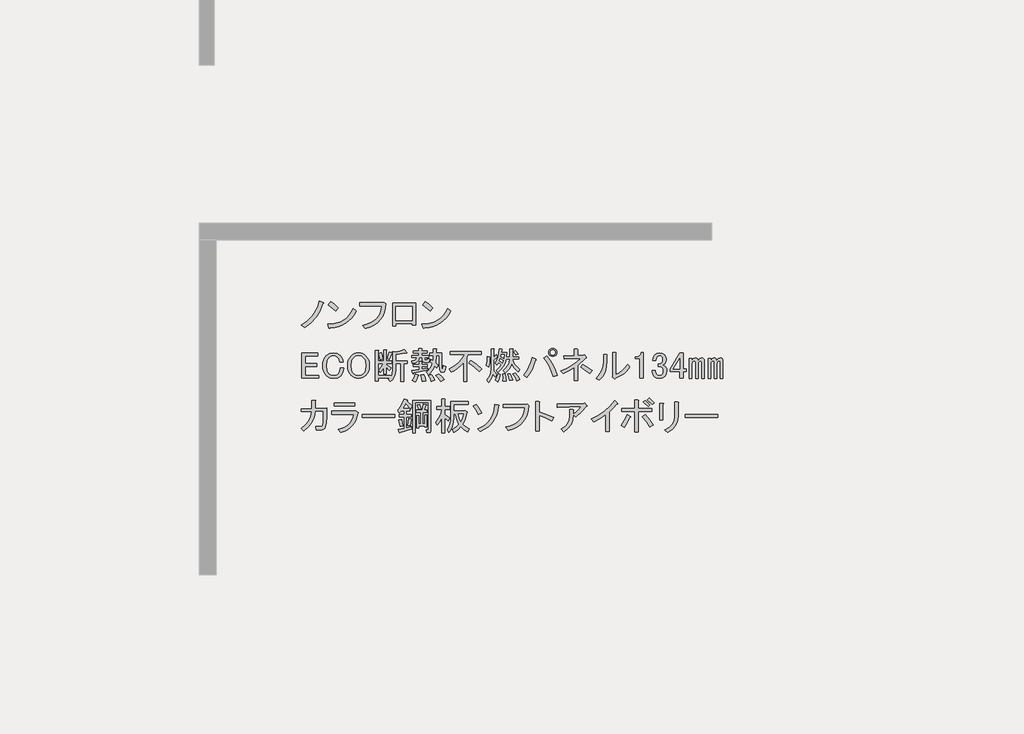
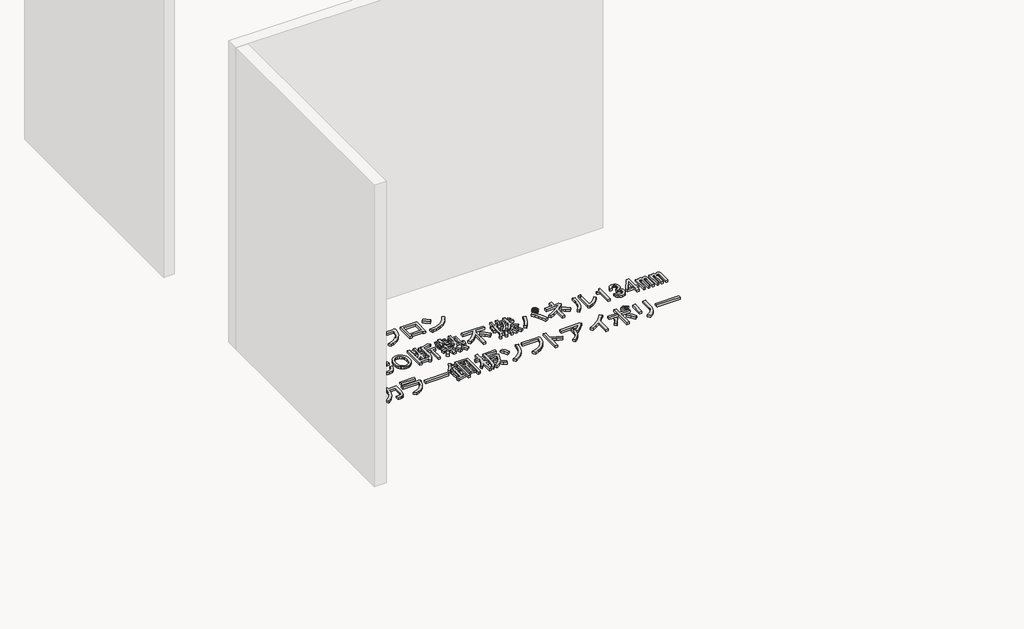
# One storey, part 46 of 117: 1 proxy.
"""IFC4 building model written with IfcOpenShell, lengths in millimetres."""

from ifc_helpers import new_model, si_unit, frame, origin, place, context, project, spatial, polyline, outline, extrude, element, save

model = new_model("IFC4")

# Units and contexts
model_context = context("Model", 3, world=origin())
ifc_project = project(units=[si_unit("LENGTHUNIT", "METRE", prefix="MILLI")], contexts=[model_context])

# Site, building, storey
site = spatial("IfcSite", under=ifc_project)
building = spatial("IfcBuilding", under=site)
storey = spatial("IfcBuildingStorey", under=building, Name="レベル 1", Elevation=500.0)

# Proxy
placement = place(None, origin())
element("IfcBuildingElementProxy", 1, Name="200㎜\u3000MS Pゴシック", ObjectType="200㎜\u3000MS Pゴシック", at=placement, inside=storey, context=model_context, shape_type="SweptSolid", body=[
    extrude(outline(polyline([(24972.1706985, -12635.5496882), (24946.5952502, -12695.3215225), (24918.146156, -12741.2998566), (24876.4782907, -12786.7034615), (24827.3389462, -12824.060858), (24799.7519457, -12802.2211493), (24847.4544673, -12771.7605029), (24887.1107805, -12733.2536481), (24904.4963381, -12709.3305462), (24919.8703435, -12681.2406577), (24933.2327969, -12648.9839827), (24944.5836981, -12612.5605212), (24975.6190736, -12626.3540214), (24978.7800841, -12630.9518548), (24972.1706985, -12635.5496882)])), frame((0.0, 0.0, 500.0), z_axis=(0.0, 0.0, 1.0), x_axis=(1.0, 0.0, 0.0)), (0.0, 0.0, 1.0), 25.0),
    extrude(outline(polyline([(25071.8977052, -12690.7236891), (25013.2753292, -12643.5958967), (25032.8161212, -12619.4572713), (25060.1157571, -12639.2854279), (25093.7374138, -12668.8839804), (25071.8977052, -12690.7236891)])), frame((0.0, 0.0, 500.0), z_axis=(0.0, 0.0, 1.0), x_axis=(1.0, 0.0, 0.0)), (0.0, 0.0, 1.0), 25.0),
    extrude(outline(polyline([(25233.9713328, -12690.7236891), (25217.447869, -12720.465924), (25198.3381239, -12746.4724192), (25176.6420975, -12768.7431748), (25152.3597898, -12787.2781907), (25125.4912008, -12802.077467), (25096.0363306, -12813.1410036), (25063.995179, -12820.4688006), (25029.3677461, -12824.060858), (25023.6204544, -12832.1070664), (25017.8731626, -12826.3597747), (25008.6774958, -12796.4738575), (25044.5082679, -12793.7977748), (25077.2857912, -12787.4937141), (25107.0100658, -12777.5616756), (25133.6810916, -12764.0016591), (25157.2988687, -12746.8136646), (25177.863397, -12725.9976923), (25195.3746766, -12701.553742), (25209.8327074, -12673.4818138), (25233.9713328, -12690.7236891)])), frame((0.0, 0.0, 500.0), z_axis=(0.0, 0.0, 1.0), x_axis=(1.0, 0.0, 0.0)), (0.0, 0.0, 1.0), 25.0),
    extrude(outline(polyline([(25284.7314136, -12805.6695243), (25318.514713, -12795.9889298), (25348.0234641, -12783.6142922), (25373.257667, -12768.5456116), (25394.2173217, -12750.782888), (25410.902428, -12730.3261214), (25423.3129862, -12707.1753118), (25431.4489961, -12681.3304591), (25435.3104577, -12652.7915635), (25262.8917049, -12652.7915635), (25262.8917049, -12627.5034798), (25437.6093744, -12627.5034798), (25453.7017914, -12624.0551047), (25466.3458332, -12635.5496882), (25462.825617, -12672.0449909), (25454.5638851, -12705.0919185), (25441.5606375, -12734.6904711), (25423.8158742, -12760.8406486), (25401.3295952, -12783.542451), (25374.1018005, -12802.7958784), (25342.1324901, -12818.6009308), (25305.421664, -12830.9576081), (25284.7314136, -12805.6695243)])), frame((0.0, 0.0, 500.0), z_axis=(0.0, 0.0, 1.0), x_axis=(1.0, 0.0, 0.0)), (0.0, 0.0, 1.0), 25.0),
    extrude(outline(polyline([(25699.455987, -12804.520066), (25673.0184449, -12804.520066), (25673.0184449, -12791.8760241), (25545.4285679, -12791.8760241), (25545.4285679, -12810.2673577), (25518.9910258, -12810.2673577), (25518.9910258, -12630.9518548), (25699.455987, -12630.9518548), (25699.455987, -12804.520066)]), holes=[polyline([(25545.4285679, -12656.2399386), (25545.4285679, -12766.5879404), (25673.0184449, -12766.5879404), (25673.0184449, -12656.2399386), (25545.4285679, -12656.2399386)])]), frame((0.0, 0.0, 500.0), z_axis=(0.0, 0.0, 1.0), x_axis=(1.0, 0.0, 0.0)), (0.0, 0.0, 1.0), 25.0),
    extrude(outline(polyline([(25975.5099049, -12690.7236891), (25958.9864411, -12720.465924), (25939.876696, -12746.4724192), (25918.1806696, -12768.7431748), (25893.8983619, -12787.2781907), (25867.0297729, -12802.077467), (25837.5749026, -12813.1410036), (25805.5337511, -12820.4688006), (25770.9063182, -12824.060858), (25765.1590264, -12832.1070664), (25759.4117347, -12826.3597747), (25750.2160679, -12796.4738575), (25786.0468399, -12793.7977748), (25818.8243633, -12787.4937141), (25848.5486378, -12777.5616756), (25875.2196637, -12764.0016591), (25898.8374407, -12746.8136646), (25919.4019691, -12725.9976923), (25936.9132486, -12701.553742), (25951.3712795, -12673.4818138), (25975.5099049, -12690.7236891)])), frame((0.0, 0.0, 500.0), z_axis=(0.0, 0.0, 1.0), x_axis=(1.0, 0.0, 0.0)), (0.0, 0.0, 1.0), 25.0),
    extrude(outline(polyline([(25813.4362772, -12690.7236891), (25754.8139013, -12643.5958967), (25774.3546933, -12619.4572713), (25801.6543291, -12639.2854279), (25835.2759859, -12668.8839804), (25813.4362772, -12690.7236891)])), frame((0.0, 0.0, 500.0), z_axis=(0.0, 0.0, 1.0), x_axis=(1.0, 0.0, 0.0)), (0.0, 0.0, 1.0), 25.0),
    extrude(outline(polyline([(24805.4992375, -13024.0551047), (24931.9396562, -13024.0551047), (24931.9396562, -13045.8948134), (24831.9367796, -13045.8948134), (24831.9367796, -13106.816106), (24925.0429061, -13106.816106), (24925.0429061, -13128.6558147), (24831.9367796, -13128.6558147), (24831.9367796, -13198.7727742), (24937.686948, -13198.7727742), (24937.686948, -13220.6124829), (24805.4992375, -13220.6124829), (24805.4992375, -13024.0551047)])), frame((0.0, 0.0, 500.0), z_axis=(0.0, 0.0, 1.0), x_axis=(1.0, 0.0, 0.0)), (0.0, 0.0, 1.0), 25.0),
    extrude(outline(polyline([(24969.7798252, -13122.908523), (24971.5758538, -13098.985421), (24976.9639399, -13077.7922827), (24985.9440832, -13059.3291079), (24998.516284, -13043.5958967), (25023.5170031, -13027.2161152), (25054.8397432, -13021.756188), (25085.5877541, -13026.641386), (25108.8642858, -13041.29698), (25124.6693381, -13064.8608762), (25130.7039944, -13094.1720642), (25103.116994, -13094.1720642), (25098.231796, -13072.9070847), (25088.1740354, -13057.3893969), (25072.9437123, -13047.0442717), (25054.8397432, -13043.5958967), (25035.2989512, -13047.6190009), (25018.0570759, -13059.6883136), (25009.0050914, -13071.3984206), (25002.5393882, -13085.8384911), (24997.3668256, -13122.908523), (25002.5393882, -13159.9785548), (25009.0050914, -13174.4186254), (25018.0570759, -13186.1287323), (25034.7242221, -13197.3359513), (25054.8397432, -13201.0716909), (25075.242629, -13197.9106804), (25090.4729521, -13188.427649), (25102.5422648, -13168.8868571), (25106.5653691, -13142.449315), (25134.1523695, -13142.449315), (25127.8303486, -13177.2204301), (25120.7899162, -13191.3731361), (25111.1632025, -13203.3706076), (25100.3151893, -13211.9197041), (25087.3119417, -13218.0262016), (25054.8397432, -13222.9113996), (25023.5170031, -13217.4514724), (24998.516284, -13201.0716909), (24985.9440832, -13185.4103209), (24976.9639399, -13167.1626695), (24971.5758538, -13146.3287369), (24969.7798252, -13122.908523)])), frame((0.0, 0.0, 500.0), z_axis=(0.0, 0.0, 1.0), x_axis=(1.0, 0.0, 0.0)), (0.0, 0.0, 1.0), 25.0),
    extrude(outline(polyline([(25165.1417667, -13121.7590646), (25166.8659542, -13098.9135799), (25172.0385168, -13078.6543764), (25180.6594544, -13060.9814543), (25192.7287671, -13045.8948134), (25205.4446501, -13035.3341648), (25219.4536738, -13027.7908443), (25234.7558381, -13023.2648521), (25251.3511431, -13021.756188), (25267.946448, -13023.2648521), (25283.2486123, -13027.7908443), (25297.257636, -13035.3341648), (25309.973519, -13045.8948134), (25322.0428317, -13060.9814543), (25330.6637694, -13078.6543764), (25335.836332, -13098.9135799), (25337.5605195, -13121.7590646), (25335.836332, -13144.6045494), (25330.6637694, -13164.8637528), (25322.0428317, -13182.536675), (25309.973519, -13197.6233159), (25297.257636, -13208.1839645), (25283.2486123, -13215.7272849), (25267.946448, -13220.2532772), (25251.3511431, -13221.7619413), (25234.7558381, -13220.2532772), (25219.4536738, -13215.7272849), (25205.4446501, -13208.1839645), (25192.7287671, -13197.6233159), (25180.6594544, -13182.536675), (25172.0385168, -13164.8637528), (25166.8659542, -13144.6045494), (25165.1417667, -13121.7590646)]), holes=[polyline([(25251.3511431, -13043.5958967), (25230.6608927, -13047.9063655), (25212.2695591, -13060.837772), (25203.7204626, -13071.9731498), (25197.6139651, -13085.8384911), (25192.7287671, -13121.7590646), (25197.6139651, -13157.6796381), (25203.7204626, -13171.5449795), (25212.2695591, -13182.6803573), (25230.6608927, -13195.6117637), (25251.3511431, -13199.9222326), (25272.0413934, -13195.6117637), (25290.432727, -13182.6803573), (25298.9818235, -13171.5449795), (25305.088321, -13157.6796381), (25309.973519, -13121.7590646), (25305.088321, -13085.8384911), (25298.9818235, -13071.9731498), (25290.432727, -13060.837772), (25272.0413934, -13047.9063655), (25251.3511431, -13043.5958967)])]), frame((0.0, 0.0, 500.0), z_axis=(0.0, 0.0, 1.0), x_axis=(1.0, 0.0, 0.0)), (0.0, 0.0, 1.0), 25.0),
    extrude(outline(polyline([(25476.3691101, -13067.7345221), (25493.6109854, -13014.8594379), (25514.3012357, -13020.6067296), (25516.0254232, -13023.7677401), (25512.002319, -13026.3540214), (25494.7604437, -13074.6312722), (25476.3691101, -13067.7345221)])), frame((0.0, 0.0, 500.0), z_axis=(0.0, 0.0, 1.0), x_axis=(1.0, 0.0, 0.0)), (0.0, 0.0, 1.0), 25.0),
    extrude(outline(polyline([(25630.3965292, -13019.4572713), (25628.6723417, -13024.0551047), (25621.2008624, -13021.756188), (25544.1871528, -13034.4002299), (25544.1871528, -13083.826939), (25636.143821, -13083.826939), (25636.143821, -13105.6666477), (25605.1084455, -13105.6666477), (25605.1084455, -13245.9005666), (25582.1192785, -13245.9005666), (25582.1192785, -13105.6666477), (25544.1871528, -13105.6666477), (25544.1871528, -13155.0933568), (25541.6008716, -13182.8958807), (25533.8420277, -13207.6810764), (25520.9106212, -13229.448944), (25502.8066522, -13248.1994833), (25485.5647769, -13228.6586914), (25495.9099021, -13219.4630245), (25406.2521506, -13219.4630245), (25406.2521506, -13241.3027332), (25383.2629836, -13241.3027332), (25383.2629836, -13002.215396), (25405.1026922, -13002.215396), (25409.9878902, -13004.5143127), (25406.2521506, -13009.1121461), (25406.2521506, -13084.9763974), (25448.7821096, -13084.9763974), (25448.7821096, -12997.6175626), (25467.1734433, -12997.6175626), (25472.0586413, -12999.9164793), (25468.3229016, -13004.5143127), (25468.3229016, -13084.9763974), (25512.002319, -13084.9763974), (25512.002319, -13103.367731), (25468.3229016, -13103.367731), (25468.3229016, -13112.5633978), (25508.5539439, -13139.0009399), (25494.7604437, -13160.8406486), (25468.3229016, -13134.4031065), (25468.3229016, -13187.2781907), (25448.7821096, -13187.2781907), (25448.7821096, -13139.0009399), (25435.5633386, -13158.8290965), (25421.1951092, -13174.6341488), (25408.5510673, -13156.2428152), (25430.390776, -13132.1041898), (25447.6326513, -13103.367731), (25406.2521506, -13103.367731), (25406.2521506, -13197.6233159), (25503.9561105, -13197.6233159), (25503.9561105, -13211.4168161), (25516.887517, -13187.2781907), (25521.1979858, -13153.9438985), (25521.1979858, -13009.1121461), (25543.0376945, -13014.8594379), (25579.2456326, -13007.3879586), (25609.7062789, -12994.1691875), (25630.3965292, -13019.4572713)])), frame((0.0, 0.0, 500.0), z_axis=(0.0, 0.0, 1.0), x_axis=(1.0, 0.0, 0.0)), (0.0, 0.0, 1.0), 25.0),
    extrude(outline(polyline([(25422.3445675, -13075.7807305), (25409.7005257, -13025.2045631), (25429.2413176, -13018.3078129), (25437.0001615, -13042.4464383), (25441.8853595, -13068.8839804), (25422.3445675, -13075.7807305)])), frame((0.0, 0.0, 500.0), z_axis=(0.0, 0.0, 1.0), x_axis=(1.0, 0.0, 0.0)), (0.0, 0.0, 1.0), 25.0),
    extrude(outline(polyline([(25766.0326148, -13191.8760241), (25776.0903754, -13219.17566), (25780.9755734, -13241.3027332), (25752.2391146, -13247.050025), (25749.6528333, -13225.4976809), (25741.8939894, -13195.3243992), (25766.0326148, -13191.8760241)])), frame((0.0, 0.0, 500.0), z_axis=(0.0, 0.0, 1.0), x_axis=(1.0, 0.0, 0.0)), (0.0, 0.0, 1.0), 25.0),
    extrude(outline(polyline([(25822.356074, -13244.7511083), (25814.022501, -13220.0377537), (25800.5163654, -13198.7727742), (25821.2066157, -13190.7265657), (25838.1611264, -13212.2789098), (25849.9430745, -13235.5554415), (25822.356074, -13244.7511083)])), frame((0.0, 0.0, 500.0), z_axis=(0.0, 0.0, 1.0), x_axis=(1.0, 0.0, 0.0)), (0.0, 0.0, 1.0), 25.0),
    extrude(outline(polyline([(25721.2037391, -13196.4738575), (25724.6521141, -13201.3590555), (25718.9048224, -13204.520066), (25709.1344264, -13230.0955143), (25698.214572, -13249.3489417), (25675.225405, -13237.8543582), (25687.8694469, -13214.290462), (25698.214572, -13187.2781907), (25721.2037391, -13196.4738575)])), frame((0.0, 0.0, 500.0), z_axis=(0.0, 0.0, 1.0), x_axis=(1.0, 0.0, 0.0)), (0.0, 0.0, 1.0), 25.0),
    extrude(outline(polyline([(25753.3885729, -13059.6883136), (25728.1004892, -13059.6883136), (25723.5026558, -13077.1457123), (25713.1575306, -13090.4363245), (25697.0651137, -13099.5601502), (25675.225405, -13104.5171893), (25670.6275716, -13084.9763974), (25695.9156553, -13076.3554597), (25703.3871346, -13069.0276627), (25707.4102388, -13059.6883136), (25671.7770299, -13059.6883136), (25671.7770299, -13041.29698), (25725.8015725, -13041.29698), (25725.8015725, -13024.0551047), (25682.1221551, -13024.0551047), (25682.1221551, -13005.6637711), (25725.8015725, -13005.6637711), (25725.8015725, -12987.2724374), (25747.6412812, -12987.2724374), (25752.5264792, -12989.5713541), (25748.7907395, -12994.1691875), (25748.7907395, -13005.6637711), (25791.3206985, -13005.6637711), (25791.3206985, -13024.0551047), (25748.7907395, -13024.0551047), (25748.7907395, -13041.29698), (25801.6658237, -13041.29698), (25801.6658237, -13059.6883136), (25772.9293649, -13059.6883136), (25772.9293649, -13072.3323555), (25774.3661878, -13077.5049181), (25778.6766567, -13079.2291056), (25789.0217818, -13079.2291056), (25792.7575215, -13076.0680951), (25792.4701569, -13066.5850637), (25812.0109489, -13068.8839804), (25809.137303, -13090.4363245), (25803.8210581, -13095.8244106), (25795.9185319, -13097.6204392), (25771.7799066, -13097.6204392), (25757.9864063, -13092.7352412), (25753.3885729, -13078.0796472), (25753.3885729, -13059.6883136)])), frame((0.0, 0.0, 500.0), z_axis=(0.0, 0.0, 1.0), x_axis=(1.0, 0.0, 0.0)), (0.0, 0.0, 1.0), 25.0),
    extrude(outline(polyline([(25884.4268251, -13042.4464383), (25862.5871164, -13042.4464383), (25857.989283, -13099.9193559), (25877.5300749, -13118.3106896), (25867.1849498, -13140.1503983), (25851.0925328, -13124.0579813), (25831.8391054, -13161.7027424), (25801.6658237, -13194.1749408), (25784.4239484, -13173.4846905), (25799.5105893, -13161.5590601), (25812.585678, -13146.4724192), (25823.6492147, -13128.2247679), (25832.7011992, -13106.816106), (25815.4593239, -13091.8731475), (25823.5055324, -13074.6312722), (25837.2990326, -13084.9763974), (25839.5979493, -13042.4464383), (25812.0109489, -13042.4464383), (25812.0109489, -13024.0551047), (25839.5979493, -13024.0551047), (25839.5979493, -12989.5713541), (25861.437658, -12989.5713541), (25866.322856, -12991.8702708), (25862.5871164, -12996.4681043), (25862.5871164, -13024.0551047), (25903.967617, -13024.0551047), (25903.967617, -13120.6096063), (25907.4159921, -13144.7482317), (25910.6488437, -13146.7597838), (25913.4506484, -13143.5987733), (25917.7611173, -13121.7590646), (25937.3019092, -13128.6558147), (25932.775917, -13155.4525626), (25924.945232, -13171.4731384), (25913.8098542, -13176.7175421), (25899.3697836, -13171.1857738), (25892.8322393, -13163.8579768), (25888.1625647, -13152.219711), (25884.4268251, -13116.0117729), (25884.4268251, -13042.4464383)])), frame((0.0, 0.0, 500.0), z_axis=(0.0, 0.0, 1.0), x_axis=(1.0, 0.0, 0.0)), (0.0, 0.0, 1.0), 25.0),
    extrude(outline(polyline([(25683.2716134, -13181.5308989), (25681.2600613, -13186.4160969), (25677.5243217, -13184.979274), (25671.7770299, -13160.8406486), (25726.9510308, -13152.7944401), (25726.9510308, -13129.8052731), (25683.2716134, -13129.8052731), (25683.2716134, -13111.4139395), (25726.9510308, -13111.4139395), (25726.9510308, -13088.4247724), (25745.3423645, -13088.4247724), (25750.2275625, -13090.7236891), (25746.4918228, -13095.3215225), (25746.4918228, -13111.4139395), (25791.3206985, -13111.4139395), (25791.3206985, -13129.8052731), (25746.4918228, -13129.8052731), (25746.4918228, -13149.3460651), (25797.0679903, -13140.1503983), (25797.0679903, -13156.2428152), (25683.2716134, -13181.5308989)])), frame((0.0, 0.0, 500.0), z_axis=(0.0, 0.0, 1.0), x_axis=(1.0, 0.0, 0.0)), (0.0, 0.0, 1.0), 25.0),
    extrude(outline(polyline([(25880.97845, -13186.1287323), (25905.6918046, -13207.3937119), (25924.6578674, -13232.1070664), (25898.2203253, -13247.050025), (25878.9668979, -13217.4514724), (25860.2881997, -13197.6233159), (25880.97845, -13186.1287323)])), frame((0.0, 0.0, 500.0), z_axis=(0.0, 0.0, 1.0), x_axis=(1.0, 0.0, 0.0)), (0.0, 0.0, 1.0), 25.0),
    extrude(outline(polyline([(26199.3784135, -13170.0363154), (26160.2968295, -13131.8168252), (26118.9163289, -13102.2182726), (26135.0087458, -13081.5280223), (26178.6881632, -13109.6897519), (26220.0686638, -13148.1966067), (26199.3784135, -13170.0363154)])), frame((0.0, 0.0, 500.0), z_axis=(0.0, 0.0, 1.0), x_axis=(1.0, 0.0, 0.0)), (0.0, 0.0, 1.0), 25.0),
    extrude(outline(polyline([(25972.9351182, -13009.1121461), (26214.3213721, -13009.1121461), (26214.3213721, -13034.4002299), (26114.3184955, -13034.4002299), (26103.9733703, -13058.5388553), (26103.9733703, -13244.7511083), (26077.5358282, -13244.7511083), (26077.5358282, -13097.6204392), (26056.7018956, -13120.8969709), (26033.2816816, -13141.2998566), (26007.2751864, -13158.8290965), (25978.6824099, -13173.4846905), (25962.589993, -13147.0471484), (26002.174465, -13126.6442626), (26035.8679629, -13101.0688143), (26063.6704868, -13070.3208034), (26085.5820367, -13034.4002299), (25972.9351182, -13034.4002299), (25972.9351182, -13009.1121461)])), frame((0.0, 0.0, 500.0), z_axis=(0.0, 0.0, 1.0), x_axis=(1.0, 0.0, 0.0)), (0.0, 0.0, 1.0), 25.0),
    extrude(outline(polyline([(26386.7401249, -13243.6016499), (26387.3148541, -13216.5893787), (26384.4412082, -13188.427649), (26403.9820002, -13187.2781907), (26410.3040211, -13213.4283682), (26410.8787503, -13241.3027332), (26386.7401249, -13243.6016499)])), frame((0.0, 0.0, 500.0), z_axis=(0.0, 0.0, 1.0), x_axis=(1.0, 0.0, 0.0)), (0.0, 0.0, 1.0), 25.0),
    extrude(outline(polyline([(26367.1993329, -13191.8760241), (26358.5783953, -13222.3366704), (26344.2101659, -13249.3489417), (26324.6693739, -13236.7048998), (26338.7502387, -13211.9915453), (26348.8079993, -13183.8298156), (26367.1993329, -13191.8760241)])), frame((0.0, 0.0, 500.0), z_axis=(0.0, 0.0, 1.0), x_axis=(1.0, 0.0, 0.0)), (0.0, 0.0, 1.0), 25.0),
    extrude(outline(polyline([(26282.1394149, -13053.9410219), (26286.7372483, -13056.2399386), (26282.1394149, -13060.837772), (26280.9899565, -13100.4940851), (26275.2426647, -13134.4031065), (26256.8513311, -13121.7590646), (26262.5986229, -13087.2753141), (26263.7480812, -13050.4926468), (26282.1394149, -13053.9410219)])), frame((0.0, 0.0, 500.0), z_axis=(0.0, 0.0, 1.0), x_axis=(1.0, 0.0, 0.0)), (0.0, 0.0, 1.0), 25.0),
    extrude(outline(polyline([(26333.8650407, -13035.5496882), (26343.0607075, -13052.7915635), (26344.4975305, -13058.8262199), (26339.6123325, -13058.5388553), (26313.1747904, -13079.2291056), (26313.1747904, -13163.1395653), (26326.9682906, -13175.4962426), (26338.4628741, -13191.8760241), (26325.8188322, -13212.5662744), (26307.4274986, -13187.2781907), (26295.6455505, -13223.1987642), (26274.0932064, -13252.7973168), (26259.1502478, -13234.4059831), (26274.2368887, -13215.6554438), (26285.0130607, -13195.0370346), (26291.478764, -13172.5507556), (26293.6339984, -13148.1966067), (26293.6339984, -12990.7208125), (26312.025332, -12990.7208125), (26316.91053, -12993.0197292), (26313.1747904, -12997.6175626), (26313.1747904, -13056.2399386), (26333.8650407, -13035.5496882)])), frame((0.0, 0.0, 500.0), z_axis=(0.0, 0.0, 1.0), x_axis=(1.0, 0.0, 0.0)), (0.0, 0.0, 1.0), 25.0),
    extrude(outline(polyline([(26484.4440848, -13004.5143127), (26506.2837935, -13028.6529381), (26489.0419182, -13040.1475216), (26482.4325327, -13028.6529381), (26469.5011262, -13014.8594379), (26484.4440848, -13004.5143127)])), frame((0.0, 0.0, 500.0), z_axis=(0.0, 0.0, 1.0), x_axis=(1.0, 0.0, 0.0)), (0.0, 0.0, 1.0), 25.0),
    extrude(outline(polyline([(26494.78921, -13241.3027332), (26481.5704389, -13213.1410036), (26464.9032928, -13188.427649), (26483.2946265, -13180.3814406), (26502.2606893, -13203.3706076), (26517.778377, -13230.9576081), (26494.78921, -13241.3027332)])), frame((0.0, 0.0, 500.0), z_axis=(0.0, 0.0, 1.0), x_axis=(1.0, 0.0, 0.0)), (0.0, 0.0, 1.0), 25.0),
    extrude(outline(polyline([(26445.3625008, -13186.1287323), (26463.7538345, -13235.5554415), (26439.6152091, -13240.1532749), (26425.8217089, -13189.5771074), (26445.3625008, -13186.1287323)])), frame((0.0, 0.0, 500.0), z_axis=(0.0, 0.0, 1.0), x_axis=(1.0, 0.0, 0.0)), (0.0, 0.0, 1.0), 25.0),
    extrude(outline(polyline([(26506.2837935, -13171.1857738), (26475.5357826, -13140.7251274), (26454.5581677, -13106.816106), (26446.1527535, -13128.9431793), (26434.7300111, -13148.1966067), (26420.2899405, -13164.5763882), (26402.8325418, -13178.0825239), (26389.0390416, -13159.6911902), (26409.8729742, -13140.7969686), (26425.2469797, -13119.7475125), (26435.161058, -13096.542822), (26439.6152091, -13071.1828971), (26410.8787503, -13071.1828971), (26402.904383, -13101.7872258), (26389.3264062, -13129.2305439), (26370.1448199, -13153.5128516), (26345.3596242, -13174.6341488), (26332.7155823, -13158.5417319), (26358.5783953, -13136.9893878), (26374.096083, -13116.0117729), (26352.2563743, -13096.4709809), (26338.4628741, -13117.1612312), (26324.6693739, -13102.2182726), (26337.0978923, -13083.1803687), (26346.7964472, -13058.2514907), (26353.7650384, -13027.4316386), (26358.0036661, -12990.7208125), (26378.6939164, -12993.0197292), (26382.1422915, -12995.6060105), (26376.3949997, -12998.767021), (26374.096083, -13017.1583546), (26417.7755004, -13017.1583546), (26414.3271253, -13052.7915635), (26439.6152091, -13052.7915635), (26439.6152091, -12990.7208125), (26461.4549178, -12990.7208125), (26466.3401158, -12993.0197292), (26462.6043761, -12997.6175626), (26462.6043761, -13052.7915635), (26512.0310853, -13052.7915635), (26512.0310853, -13071.1828971), (26462.6043761, -13071.1828971), (26469.1419205, -13092.9507647), (26480.7083452, -13113.4254916), (26497.3036501, -13132.6070778), (26518.9278354, -13150.4955234), (26506.2837935, -13171.1857738)]), holes=[polyline([(26382.1422915, -13101.0688143), (26389.0390416, -13081.5280223), (26363.7509579, -13065.4356054), (26358.0036661, -13082.6774807), (26382.1422915, -13101.0688143)]), polyline([(26371.7971663, -13035.5496882), (26368.3487913, -13051.6421052), (26393.636875, -13065.4356054), (26398.2347084, -13035.5496882), (26371.7971663, -13035.5496882)])]), frame((0.0, 0.0, 500.0), z_axis=(0.0, 0.0, 1.0), x_axis=(1.0, 0.0, 0.0)), (0.0, 0.0, 1.0), 25.0),
    extrude(outline(polyline([(26731.5776305, -13044.745355), (26758.230696, -13081.4561812), (26780.7169751, -13119.1727833), (26799.0364675, -13157.8951616), (26813.1891735, -13197.6233159), (26782.153798, -13207.968441), (26766.7079514, -13164.8637528), (26749.1068704, -13126.356898), (26729.3505549, -13092.4478766), (26707.4390051, -13063.1366887), (26731.5776305, -13044.745355)])), frame((0.0, 0.0, 500.0), z_axis=(0.0, 0.0, 1.0), x_axis=(1.0, 0.0, 0.0)), (0.0, 0.0, 1.0), 25.0),
    extrude(outline(polyline([(26644.2187958, -13071.1828971), (26648.2419, -13076.6428243), (26641.919879, -13081.5280223), (26629.9942486, -13116.9457078), (26614.9076078, -13150.782888), (26596.6599564, -13183.039563), (26575.2512946, -13213.7157328), (26548.8137525, -13196.4738575), (26572.018443, -13165.0074351), (26591.056347, -13131.5294606), (26605.9274644, -13096.039934), (26616.6317953, -13058.5388553), (26644.2187958, -13071.1828971)])), frame((0.0, 0.0, 500.0), z_axis=(0.0, 0.0, 1.0), x_axis=(1.0, 0.0, 0.0)), (0.0, 0.0, 1.0), 25.0),
    extrude(outline(polyline([(26777.5559646, -13050.4926468), (26764.9119227, -13048.1937301), (26754.5667975, -13041.29698), (26747.6700474, -13030.9518548), (26745.3711307, -13018.3078129), (26747.6700474, -13005.6637711), (26754.5667975, -12995.3186459), (26764.9119227, -12988.4218958), (26777.5559646, -12986.1229791), (26790.2000065, -12988.4218958), (26800.5451316, -12995.3186459), (26807.4418817, -13005.6637711), (26809.7407984, -13018.3078129), (26807.4418817, -13030.9518548), (26800.5451316, -13041.29698), (26790.2000065, -13048.1937301), (26777.5559646, -13050.4926468)]), holes=[polyline([(26777.5559646, -13038.9980633), (26785.8895376, -13037.5612403), (26792.4989232, -13033.2507715), (26796.809392, -13026.641386), (26798.2462149, -13018.3078129), (26796.809392, -13009.9742399), (26792.4989232, -13003.3648544), (26785.8895376, -12999.0543855), (26777.5559646, -12997.6175626), (26769.2223915, -12999.0543855), (26762.613006, -13003.3648544), (26758.3025372, -13009.9742399), (26756.8657143, -13018.3078129), (26758.3025372, -13026.641386), (26762.613006, -13033.2507715), (26769.2223915, -13037.5612403), (26777.5559646, -13038.9980633)])]), frame((0.0, 0.0, 500.0), z_axis=(0.0, 0.0, 1.0), x_axis=(1.0, 0.0, 0.0)), (0.0, 0.0, 1.0), 25.0),
    extrude(outline(polyline([(27021.2411352, -13040.1475216), (27028.1378853, -13037.8486049), (27040.7819272, -13055.0904802), (27041.9313856, -13061.1251366), (27036.1840938, -13063.1366887), (26972.9638844, -13119.4601479), (26972.9638844, -13240.1532749), (26946.5263423, -13240.1532749), (26946.5263423, -13137.8514816), (26906.2953, -13161.9901069), (26861.4664243, -13183.8298156), (26841.9256323, -13163.1395653), (26887.4729195, -13143.6706145), (26928.7097379, -13120.8969709), (26965.6360874, -13094.8186345), (26998.2519682, -13065.4356054), (26868.3631744, -13071.1828971), (26864.9147993, -13045.8948134), (26946.5263423, -13043.5958967), (26946.5263423, -12991.8702708), (26969.5155094, -12991.8702708), (26975.5501657, -12995.3186459), (26972.9638844, -13001.0659377), (26972.9638844, -13042.4464383), (27021.2411352, -13040.1475216)])), frame((0.0, 0.0, 500.0), z_axis=(0.0, 0.0, 1.0), x_axis=(1.0, 0.0, 0.0)), (0.0, 0.0, 1.0), 25.0),
    extrude(outline(polyline([(27067.2194693, -13183.8298156), (27030.1494375, -13154.5186277), (26997.1025098, -13133.2536481), (27014.3443851, -13111.4139395), (27053.1386045, -13134.6904711), (27086.7602613, -13160.8406486), (27067.2194693, -13183.8298156)])), frame((0.0, 0.0, 500.0), z_axis=(0.0, 0.0, 1.0), x_axis=(1.0, 0.0, 0.0)), (0.0, 0.0, 1.0), 25.0),
    extrude(outline(polyline([(27274.2139293, -13190.7265657), (27298.9991251, -13178.5135708), (27322.7785447, -13161.4153778), (27345.5521883, -13139.4319868), (27367.3200559, -13112.5633978), (27383.4124728, -13134.4031065), (27360.1359412, -13162.2056304), (27333.9857636, -13185.8413678), (27304.9619403, -13205.3103186), (27273.064471, -13220.6124829), (27263.8688042, -13225.2103163), (27245.4774705, -13211.4168161), (27247.7763872, -13205.6695243), (27247.7763872, -13020.6067296), (27271.9150126, -13020.6067296), (27277.6623044, -13024.0551047), (27274.2139293, -13029.8023965), (27274.2139293, -13190.7265657)])), frame((0.0, 0.0, 500.0), z_axis=(0.0, 0.0, 1.0), x_axis=(1.0, 0.0, 0.0)), (0.0, 0.0, 1.0), 25.0),
    extrude(outline(polyline([(27120.1865102, -13221.7619413), (27145.3309116, -13192.5225944), (27163.2911984, -13159.9785548), (27174.0673704, -13124.1298225), (27177.6594278, -13084.9763974), (27177.6594278, -13033.2507715), (27201.7980532, -13033.2507715), (27207.5453449, -13036.6991466), (27204.0969699, -13042.4464383), (27204.0969699, -13083.826939), (27200.2893891, -13129.5897496), (27188.8666467, -13170.32368), (27169.8287427, -13206.0287301), (27143.1756772, -13236.7048998), (27120.1865102, -13221.7619413)])), frame((0.0, 0.0, 500.0), z_axis=(0.0, 0.0, 1.0), x_axis=(1.0, 0.0, 0.0)), (0.0, 0.0, 1.0), 25.0),
    extrude(outline(polyline([(27462.7250991, -13043.5958967), (27470.7713075, -13032.6760423), (27474.2196826, -13020.6067296), (27488.0131828, -13020.6067296), (27488.0131828, -13219.4630245), (27461.5756407, -13219.4630245), (27461.5756407, -13066.5850637), (27427.0918902, -13066.5850637), (27427.0918902, -13052.7915635), (27437.4370153, -13052.7915635), (27451.8052447, -13050.4926468), (27462.7250991, -13043.5958967)])), frame((0.0, 0.0, 500.0), z_axis=(0.0, 0.0, 1.0), x_axis=(1.0, 0.0, 0.0)), (0.0, 0.0, 1.0), 25.0),
    extrude(outline(polyline([(27562.7279757, -13080.378564), (27567.0384445, -13056.2399386), (27579.969851, -13036.6991466), (27596.6369971, -13025.4919276), (27616.7525182, -13021.756188), (27639.4543207, -13025.4919276), (27656.9835606, -13036.6991466), (27667.3286857, -13052.7915635), (27670.7770608, -13073.4818138), (27667.9034149, -13093.597335), (27659.2824773, -13107.9655644), (27650.9489042, -13114.2875853), (27642.040602, -13117.1612312), (27661.581394, -13128.6558147), (27671.9265191, -13144.7482317), (27675.3748942, -13165.438482), (27671.35179, -13188.427649), (27659.2824773, -13206.8189827), (27640.0290499, -13218.8882954), (27614.4536015, -13222.9113996), (27592.3265283, -13218.8882954), (27574.2225592, -13206.8189827), (27562.1532465, -13189.2897428), (27558.1301423, -13168.8868571), (27558.1301423, -13159.6911902), (27584.5676844, -13159.6911902), (27584.5676844, -13167.7373987), (27587.1539657, -13181.5308989), (27594.9128096, -13193.0254825), (27603.8211118, -13199.0601388), (27614.4536015, -13201.0716909), (27627.9597372, -13198.7727742), (27638.5922269, -13191.8760241), (27645.488977, -13180.094076), (27647.7878938, -13163.1395653), (27645.488977, -13148.7713359), (27638.5922269, -13137.8514816), (27628.8218309, -13130.9547314), (27617.9019766, -13128.6558147), (27608.7063098, -13128.6558147), (27608.7063098, -13109.1150228), (27615.6030599, -13109.1150228), (27625.6608205, -13106.816106), (27635.1438519, -13099.9193559), (27642.040602, -13088.712137), (27644.3395187, -13073.4818138), (27642.040602, -13059.9756782), (27635.1438519, -13049.3431884), (27627.0976434, -13044.1706259), (27616.7525182, -13042.4464383), (27606.9821223, -13044.4579904), (27598.3611846, -13050.4926468), (27591.1770699, -13062.5619595), (27588.0160594, -13080.378564), (27562.7279757, -13080.378564)])), frame((0.0, 0.0, 500.0), z_axis=(0.0, 0.0, 1.0), x_axis=(1.0, 0.0, 0.0)), (0.0, 0.0, 1.0), 25.0),
    extrude(outline(polyline([(27777.6766875, -13021.756188), (27804.1142296, -13021.756188), (27804.1142296, -13148.1966067), (27828.252855, -13148.1966067), (27828.252855, -13170.0363154), (27804.1142296, -13170.0363154), (27804.1142296, -13220.6124829), (27777.6766875, -13220.6124829), (27777.6766875, -13170.0363154), (27700.6629779, -13170.0363154), (27700.6629779, -13147.0471484), (27777.6766875, -13021.756188)]), holes=[polyline([(27777.6766875, -13064.286147), (27725.9510617, -13148.1966067), (27777.6766875, -13148.1966067), (27777.6766875, -13064.286147)])]), frame((0.0, 0.0, 500.0), z_axis=(0.0, 0.0, 1.0), x_axis=(1.0, 0.0, 0.0)), (0.0, 0.0, 1.0), 25.0),
    extrude(outline(polyline([(27871.9322724, -13221.7619413), (27852.3914804, -13221.7619413), (27852.3914804, -13064.286147), (27871.9322724, -13064.286147), (27871.9322724, -13081.5280223), (27884.0015851, -13066.0103346), (27897.2203561, -13060.837772), (27906.416023, -13062.2745949), (27913.3127731, -13066.5850637), (27920.2095232, -13080.378564), (27933.1409296, -13065.72297), (27946.6470653, -13060.837772), (27954.9806383, -13062.2745949), (27961.5900239, -13066.5850637), (27966.7625864, -13075.2060014), (27968.486774, -13087.2753141), (27968.486774, -13221.7619413), (27948.945982, -13221.7619413), (27948.945982, -13097.6204392), (27946.3597007, -13088.1374078), (27938.6008568, -13084.9763974), (27928.2557317, -13089.5742308), (27922.2210753, -13098.1951684), (27920.2095232, -13107.9655644), (27920.2095232, -13221.7619413), (27900.6687312, -13221.7619413), (27900.6687312, -13097.6204392), (27898.0824499, -13088.1374078), (27890.323606, -13084.9763974), (27879.9784809, -13089.5742308), (27873.9438245, -13098.1951684), (27871.9322724, -13107.9655644), (27871.9322724, -13221.7619413)])), frame((0.0, 0.0, 500.0), z_axis=(0.0, 0.0, 1.0), x_axis=(1.0, 0.0, 0.0)), (0.0, 0.0, 1.0), 25.0),
    extrude(outline(polyline([(28093.7777343, -13060.837772), (28102.1113074, -13062.2745949), (28108.7206929, -13066.5850637), (28113.8932555, -13075.2060014), (28115.617443, -13087.2753141), (28115.617443, -13221.7619413), (28096.0766511, -13221.7619413), (28096.0766511, -13097.6204392), (28093.4903698, -13088.1374078), (28085.7315259, -13084.9763974), (28075.3864007, -13089.5742308), (28069.3517444, -13098.1951684), (28067.3401922, -13107.9655644), (28067.3401922, -13221.7619413), (28047.7994003, -13221.7619413), (28047.7994003, -13097.6204392), (28045.213119, -13088.1374078), (28037.4542751, -13084.9763974), (28027.1091499, -13089.5742308), (28021.0744936, -13098.1951684), (28019.0629415, -13107.9655644), (28019.0629415, -13221.7619413), (27999.5221495, -13221.7619413), (27999.5221495, -13064.286147), (28019.0629415, -13064.286147), (28019.0629415, -13081.5280223), (28031.1322542, -13066.0103346), (28044.3510252, -13060.837772), (28053.546692, -13062.2745949), (28060.4434421, -13066.5850637), (28067.3401922, -13080.378564), (28080.2715987, -13065.72297), (28093.7777343, -13060.837772)])), frame((0.0, 0.0, 500.0), z_axis=(0.0, 0.0, 1.0), x_axis=(1.0, 0.0, 0.0)), (0.0, 0.0, 1.0), 25.0),
    extrude(outline(polyline([(24975.6190736, -13479.2291056), (24910.0999475, -13481.5280223), (24901.8382156, -13527.793721), (24883.94977, -13568.8868571), (24856.4346107, -13604.8074306), (24819.2927377, -13635.5554415), (24799.7519457, -13616.0146495), (24834.7385843, -13587.7810787), (24860.3858738, -13555.9554506), (24876.6938142, -13520.5377651), (24883.6624054, -13481.5280223), (24802.0508624, -13483.826939), (24799.7519457, -13460.837772), (24884.8118638, -13458.5388553), (24884.8118638, -13394.1691875), (24908.9504892, -13394.1691875), (24915.8472393, -13397.6175626), (24911.2494059, -13403.3648544), (24911.2494059, -13458.5388553), (25002.0566157, -13455.0904802), (25002.0566157, -13526.356898), (24999.4703344, -13574.3467842), (24991.7114905, -13605.6695243), (24985.102105, -13615.7272849), (24975.6190736, -13622.9113996), (24963.2623963, -13627.2218684), (24948.0320731, -13628.6586914), (24920.4450727, -13628.6586914), (24916.9966976, -13599.9222326), (24946.8826148, -13602.2211493), (24960.9634796, -13599.3475034), (24968.7223235, -13590.7265657), (24973.8948861, -13565.438482), (24975.6190736, -13526.356898), (24975.6190736, -13479.2291056)])), frame((0.0, 0.0, 500.0), z_axis=(0.0, 0.0, 1.0), x_axis=(1.0, 0.0, 0.0)), (0.0, 0.0, 1.0), 25.0),
    extrude(outline(polyline([(25220.3617459, -13438.9980633), (25061.7364933, -13438.9980633), (25061.7364933, -13413.7099795), (25220.3617459, -13413.7099795), (25220.3617459, -13438.9980633)])), frame((0.0, 0.0, 500.0), z_axis=(0.0, 0.0, 1.0), x_axis=(1.0, 0.0, 0.0)), (0.0, 0.0, 1.0), 25.0),
    extrude(outline(polyline([(25090.4729521, -13625.2103163), (25140.1151847, -13606.8908238), (25160.3564279, -13594.7676303), (25177.5444223, -13580.6688052), (25191.679168, -13564.5943485), (25202.7606649, -13546.5442603), (25210.7889131, -13526.5185406), (25215.7639125, -13504.5171893), (25041.046243, -13504.5171893), (25041.046243, -13479.2291056), (25216.9133709, -13479.2291056), (25227.258496, -13475.7807305), (25247.9487464, -13488.4247724), (25250.8223922, -13493.8846996), (25245.6498297, -13498.7698976), (25239.5253719, -13526.2491363), (25230.3476653, -13551.2139349), (25218.1167101, -13573.6642933), (25202.832506, -13593.6002116), (25184.4950533, -13611.0216898), (25163.1043517, -13625.9287278), (25138.6604015, -13638.3213256), (25111.1632025, -13648.1994833), (25090.4729521, -13625.2103163)])), frame((0.0, 0.0, 500.0), z_axis=(0.0, 0.0, 1.0), x_axis=(1.0, 0.0, 0.0)), (0.0, 0.0, 1.0), 25.0),
    extrude(outline(polyline([(25279.3979269, -13529.8052731), (25279.3979269, -13504.5171893), (25535.7271394, -13504.5171893), (25535.7271394, -13529.8052731), (25279.3979269, -13529.8052731)])), frame((0.0, 0.0, 500.0), z_axis=(0.0, 0.0, 1.0), x_axis=(1.0, 0.0, 0.0)), (0.0, 0.0, 1.0), 25.0),
    extrude(outline(polyline([(25730.8591892, -13426.3540214), (25738.0433039, -13441.5843446), (25743.5032311, -13461.9872303), (25726.2613558, -13467.7345221), (25714.7667723, -13430.9518548), (25730.8591892, -13426.3540214)])), frame((0.0, 0.0, 500.0), z_axis=(0.0, 0.0, 1.0), x_axis=(1.0, 0.0, 0.0)), (0.0, 0.0, 1.0), 25.0),
    extrude(outline(polyline([(25783.7342734, -13427.5034798), (25786.3205547, -13430.9518548), (25780.2858984, -13434.4002299), (25767.6418565, -13472.3323555), (25788.3321068, -13472.3323555), (25788.3321068, -13490.7236891), (25757.2967313, -13490.7236891), (25757.2967313, -13579.2319822), (25772.2396899, -13579.2319822), (25772.2396899, -13511.4139395), (25788.3321068, -13511.4139395), (25788.3321068, -13605.6695243), (25772.2396899, -13605.6695243), (25772.2396899, -13597.6233159), (25726.2613558, -13597.6233159), (25726.2613558, -13610.2673577), (25710.1689389, -13610.2673577), (25710.1689389, -13513.7128562), (25726.2613558, -13513.7128562), (25726.2613558, -13579.2319822), (25741.2043144, -13579.2319822), (25741.2043144, -13490.7236891), (25705.5711055, -13490.7236891), (25705.5711055, -13472.3323555), (25751.5494396, -13472.3323555), (25761.8945647, -13422.9056463), (25783.7342734, -13427.5034798)])), frame((0.0, 0.0, 500.0), z_axis=(0.0, 0.0, 1.0), x_axis=(1.0, 0.0, 0.0)), (0.0, 0.0, 1.0), 25.0),
    extrude(outline(polyline([(25677.984105, -13394.1691875), (25818.218024, -13394.1691875), (25818.218024, -13634.4059831), (25814.4822843, -13645.6132021), (25803.2750654, -13649.3489417), (25787.1826485, -13649.3489417), (25782.5848151, -13627.509233), (25794.0793986, -13627.509233), (25797.5277736, -13626.3597747), (25798.677232, -13622.9113996), (25798.677232, -13412.5605212), (25697.524897, -13412.5605212), (25697.524897, -13651.6478584), (25677.984105, -13651.6478584), (25677.984105, -13394.1691875)])), frame((0.0, 0.0, 500.0), z_axis=(0.0, 0.0, 1.0), x_axis=(1.0, 0.0, 0.0)), (0.0, 0.0, 1.0), 25.0),
    extrude(outline(polyline([(25666.4895215, -13542.449315), (25669.0758028, -13545.6103254), (25665.3400632, -13548.1966067), (25657.2938547, -13595.3243992), (25638.9025211, -13593.0254825), (25644.6498128, -13539.0009399), (25666.4895215, -13542.449315)])), frame((0.0, 0.0, 500.0), z_axis=(0.0, 0.0, 1.0), x_axis=(1.0, 0.0, 0.0)), (0.0, 0.0, 1.0), 25.0),
    extrude(outline(polyline([(25589.4758119, -13543.5987733), (25600.9703954, -13595.3243992), (25580.2801451, -13601.0716909), (25568.7855616, -13549.3460651), (25589.4758119, -13543.5987733)])), frame((0.0, 0.0, 500.0), z_axis=(0.0, 0.0, 1.0), x_axis=(1.0, 0.0, 0.0)), (0.0, 0.0, 1.0), 25.0),
    extrude(outline(polyline([(25663.0411464, -13463.1366887), (25621.6606458, -13419.4572713), (25599.8209371, -13458.5388553), (25654.994938, -13458.5388553), (25654.994938, -13476.9301889), (25628.5573959, -13476.9301889), (25628.5573959, -13505.6666477), (25666.4895215, -13505.6666477), (25666.4895215, -13524.0579813), (25628.5573959, -13524.0579813), (25628.5573959, -13611.4168161), (25667.6389799, -13601.0716909), (25669.9378966, -13620.6124829), (25577.9812284, -13645.9005666), (25575.6823117, -13651.6478584), (25571.0844783, -13648.1994833), (25564.1877282, -13625.2103163), (25609.0166039, -13616.0146495), (25609.0166039, -13524.0579813), (25571.0844783, -13524.0579813), (25571.0844783, -13505.6666477), (25609.0166039, -13505.6666477), (25609.0166039, -13476.9301889), (25587.1768952, -13476.9301889), (25572.2339366, -13495.3215225), (25559.5898948, -13474.6312722), (25587.7516244, -13436.9865112), (25612.464979, -13386.1229791), (25634.3046876, -13391.8702708), (25637.7530627, -13395.6060105), (25632.0057709, -13397.6175626), (25630.8563126, -13401.0659377), (25675.6851883, -13438.9980633), (25663.0411464, -13463.1366887)])), frame((0.0, 0.0, 500.0), z_axis=(0.0, 0.0, 1.0), x_axis=(1.0, 0.0, 0.0)), (0.0, 0.0, 1.0), 25.0),
    extrude(outline(polyline([(25989.4873184, -13622.9113996), (26018.2237772, -13605.6695243), (26040.0634859, -13583.8298156), (26022.2468815, -13541.8745858), (26012.4764855, -13501.0688143), (25999.8324436, -13501.0688143), (25999.8324436, -13525.2074397), (25997.3898446, -13566.9471461), (25990.0620476, -13601.3590555), (25977.8490526, -13628.4431679), (25960.7508596, -13648.1994833), (25946.9573594, -13625.2103163), (25960.0324482, -13607.8247587), (25969.3717973, -13585.5540032), (25974.9754067, -13558.3980496), (25976.8432766, -13526.356898), (25976.8432766, -13405.6637711), (26113.6288204, -13405.6637711), (26113.6288204, -13427.5034798), (25999.8324436, -13427.5034798), (25999.8324436, -13479.2291056), (26079.1450699, -13479.2291056), (26084.8923616, -13473.4818138), (26104.4331536, -13487.2753141), (26105.8699766, -13491.0110537), (26100.9847786, -13495.3215225), (26088.6281013, -13541.8745858), (26069.9494031, -13582.6803573), (26088.9154659, -13601.0716909), (26120.5255706, -13619.4630245), (26111.3299037, -13643.6016499), (26083.4555387, -13627.509233), (26055.0064445, -13602.2211493), (26030.5804545, -13626.6471392), (25998.6829852, -13647.050025), (25989.4873184, -13622.9113996)]), holes=[polyline([(26034.3161942, -13501.0688143), (26042.3624026, -13534.1157419), (26055.0064445, -13561.9901069), (26067.6504864, -13535.8399294), (26075.6966948, -13501.0688143), (26034.3161942, -13501.0688143)])]), frame((0.0, 0.0, 500.0), z_axis=(0.0, 0.0, 1.0), x_axis=(1.0, 0.0, 0.0)), (0.0, 0.0, 1.0), 25.0),
    extrude(outline(polyline([(25906.7263171, -13651.6478584), (25906.7263171, -13532.1041898), (25888.9097126, -13566.3005758), (25869.9436498, -13588.427649), (25858.4490663, -13567.7373987), (25875.6909416, -13545.0355963), (25889.4844418, -13520.6096063), (25899.829567, -13494.4594288), (25906.7263171, -13466.5850637), (25865.3458164, -13466.5850637), (25865.3458164, -13444.745355), (25906.7263171, -13444.745355), (25906.7263171, -13384.9735207), (25928.5660258, -13384.9735207), (25933.4512238, -13387.2724374), (25929.7154841, -13391.8702708), (25929.7154841, -13444.745355), (25967.6476097, -13444.745355), (25967.6476097, -13466.5850637), (25929.7154841, -13466.5850637), (25929.7154841, -13506.816106), (25967.6476097, -13533.2536481), (25957.3024846, -13556.2428152), (25929.7154841, -13533.2536481), (25929.7154841, -13651.6478584), (25906.7263171, -13651.6478584)])), frame((0.0, 0.0, 500.0), z_axis=(0.0, 0.0, 1.0), x_axis=(1.0, 0.0, 0.0)), (0.0, 0.0, 1.0), 25.0),
    extrude(outline(polyline([(26287.1970316, -13545.89769), (26299.3381855, -13525.0637574), (26309.3241049, -13498.1951684), (26317.1547899, -13465.2919231), (26322.8302405, -13426.3540214), (26351.5666993, -13430.9518548), (26356.4518973, -13434.6875945), (26350.417241, -13441.29698), (26345.1728372, -13476.6428243), (26336.3363762, -13509.1150228), (26323.9078577, -13538.7135753), (26307.8872819, -13565.438482), (26291.794865, -13584.4045448), (26269.9551563, -13603.3706076), (26209.0338637, -13641.3027332), (26188.3436133, -13620.6124829), (26219.0916242, -13604.7355894), (26245.8165309, -13586.9908261), (26268.5183334, -13567.378193), (26287.1970316, -13545.89769)])), frame((0.0, 0.0, 500.0), z_axis=(0.0, 0.0, 1.0), x_axis=(1.0, 0.0, 0.0)), (0.0, 0.0, 1.0), 25.0),
    extrude(outline(polyline([(26192.9414467, -13507.9655644), (26172.538561, -13468.5966158), (26152.7104044, -13440.1475216), (26177.9984882, -13426.3540214), (26198.1140093, -13455.0904802), (26219.3789888, -13493.0226058), (26192.9414467, -13507.9655644)])), frame((0.0, 0.0, 500.0), z_axis=(0.0, 0.0, 1.0), x_axis=(1.0, 0.0, 0.0)), (0.0, 0.0, 1.0), 25.0),
    extrude(outline(polyline([(26408.8097253, -13605.6695243), (26442.5930246, -13595.9889298), (26472.1017758, -13583.6142922), (26497.3359786, -13568.5456116), (26518.2956333, -13550.782888), (26534.9807397, -13530.3261214), (26547.3912978, -13507.1753118), (26555.5273077, -13481.3304591), (26559.3887694, -13452.7915635), (26386.9700166, -13452.7915635), (26386.9700166, -13427.5034798), (26561.6876861, -13427.5034798), (26577.780103, -13424.0551047), (26590.4241449, -13435.5496882), (26586.9039287, -13472.0449909), (26578.6421968, -13505.0919185), (26565.6389492, -13534.6904711), (26547.8941859, -13560.8406486), (26525.4079068, -13583.542451), (26498.1801121, -13602.7958784), (26466.2108017, -13618.6009308), (26429.4999756, -13630.9576081), (26408.8097253, -13605.6695243)])), frame((0.0, 0.0, 500.0), z_axis=(0.0, 0.0, 1.0), x_axis=(1.0, 0.0, 0.0)), (0.0, 0.0, 1.0), 25.0),
    extrude(outline(polyline([(26670.6563378, -13486.1258557), (26727.2671617, -13505.0919185), (26784.4527147, -13529.8052731), (26770.6592145, -13556.2428152), (26715.197849, -13530.3800023), (26670.6563378, -13514.8623145), (26670.6563378, -13634.4059831), (26644.2187958, -13634.4059831), (26644.2187958, -13404.5143127), (26667.2079628, -13404.5143127), (26674.9668067, -13407.3879586), (26670.6563378, -13413.7099795), (26670.6563378, -13486.1258557)])), frame((0.0, 0.0, 500.0), z_axis=(0.0, 0.0, 1.0), x_axis=(1.0, 0.0, 0.0)), (0.0, 0.0, 1.0), 25.0),
    extrude(outline(polyline([(26938.9399172, -13506.816106), (26935.1323364, -13548.0529244), (26921.4106773, -13584.4045448), (26897.77494, -13615.8709672), (26864.2251243, -13642.4521916), (26844.6843323, -13620.6124829), (26874.3547261, -13600.3532794), (26895.5478644, -13576.3583363), (26908.2637474, -13548.6276536), (26912.5023751, -13517.1612312), (26912.5023751, -13467.7345221), (26936.6410005, -13467.7345221), (26942.3882923, -13470.3208034), (26938.9399172, -13475.7807305), (26938.9399172, -13505.6666477), (26975.4352199, -13474.9186368), (27002.1601266, -13444.745355), (26814.7984152, -13451.6421052), (26812.4994985, -13425.2045631), (27021.7009186, -13419.4572713), (27029.747127, -13417.1583546), (27046.9890023, -13437.8486049), (27047.2763669, -13441.0096154), (27041.2417105, -13441.29698), (27003.3095849, -13484.6890328), (26958.4807092, -13525.2074397), (26938.9399172, -13506.816106)])), frame((0.0, 0.0, 500.0), z_axis=(0.0, 0.0, 1.0), x_axis=(1.0, 0.0, 0.0)), (0.0, 0.0, 1.0), 25.0),
    extrude(outline(polyline([(27080.7830779, -13540.1503983), (27137.4657428, -13512.2760332), (27186.8206108, -13479.2291056), (27228.8476818, -13441.0096154), (27263.5469558, -13397.6175626), (27285.3866645, -13416.0088962), (27287.9729458, -13422.0435526), (27277.3404561, -13426.3540214), (27252.3397369, -13455.3778448), (27221.0169968, -13484.9763974), (27221.0169968, -13641.3027332), (27194.5794547, -13641.3027332), (27194.5794547, -13506.816106), (27150.9000373, -13536.4146586), (27100.3238698, -13563.1395653), (27080.7830779, -13540.1503983)])), frame((0.0, 0.0, 500.0), z_axis=(0.0, 0.0, 1.0), x_axis=(1.0, 0.0, 0.0)), (0.0, 0.0, 1.0), 25.0),
    extrude(outline(polyline([(27504.8412531, -13506.816106), (27541.0491912, -13548.7713359), (27566.9120041, -13587.2781907), (27541.6239204, -13604.520066), (27514.8990137, -13563.4269299), (27483.0015444, -13525.2074397), (27504.8412531, -13506.816106)])), frame((0.0, 0.0, 500.0), z_axis=(0.0, 0.0, 1.0), x_axis=(1.0, 0.0, 0.0)), (0.0, 0.0, 1.0), 25.0),
    extrude(outline(polyline([(27449.6672522, -13457.3893969), (27555.4174206, -13457.3893969), (27555.4174206, -13482.6774807), (27449.6672522, -13482.6774807), (27449.6672522, -13642.4521916), (27423.2297101, -13642.4521916), (27423.2297101, -13482.6774807), (27319.7784584, -13482.6774807), (27319.7784584, -13457.3893969), (27423.2297101, -13457.3893969), (27423.2297101, -13393.0197292), (27447.3683355, -13393.0197292), (27454.2650856, -13396.4681043), (27449.6672522, -13402.215396), (27449.6672522, -13457.3893969)])), frame((0.0, 0.0, 500.0), z_axis=(0.0, 0.0, 1.0), x_axis=(1.0, 0.0, 0.0)), (0.0, 0.0, 1.0), 25.0),
    extrude(outline(polyline([(27388.7459595, -13520.6096063), (27391.0448762, -13525.4948043), (27384.1481261, -13528.6558147), (27364.6073341, -13567.4500341), (27340.4687088, -13607.968441), (27315.180625, -13594.1749408), (27341.6181671, -13551.6449818), (27363.4578758, -13506.816106), (27388.7459595, -13520.6096063)])), frame((0.0, 0.0, 500.0), z_axis=(0.0, 0.0, 1.0), x_axis=(1.0, 0.0, 0.0)), (0.0, 0.0, 1.0), 25.0),
    extrude(outline(polyline([(27527.8304201, -13444.745355), (27489.8982945, -13409.1121461), (27503.6917947, -13395.3186459), (27541.6239204, -13429.8023965), (27527.8304201, -13444.745355)])), frame((0.0, 0.0, 500.0), z_axis=(0.0, 0.0, 1.0), x_axis=(1.0, 0.0, 0.0)), (0.0, 0.0, 1.0), 25.0),
    extrude(outline(polyline([(27560.015254, -13428.6529381), (27522.0831284, -13390.7208125), (27537.026087, -13378.0767706), (27574.9582126, -13414.8594379), (27560.015254, -13428.6529381)])), frame((0.0, 0.0, 500.0), z_axis=(0.0, 0.0, 1.0), x_axis=(1.0, 0.0, 0.0)), (0.0, 0.0, 1.0), 25.0),
    extrude(outline(polyline([(27762.5498156, -13522.908523), (27757.5209353, -13562.995883), (27742.4342945, -13597.0485867), (27717.289893, -13625.066634), (27682.087731, -13647.050025), (27659.0985639, -13627.509233), (27692.361015, -13607.968441), (27716.284117, -13583.8298156), (27730.8678698, -13555.0933568), (27736.1122735, -13521.7590646), (27736.1122735, -13406.8132294), (27760.2508989, -13406.8132294), (27766.5729199, -13410.2616045), (27762.5498156, -13416.0088962), (27762.5498156, -13522.908523)])), frame((0.0, 0.0, 500.0), z_axis=(0.0, 0.0, 1.0), x_axis=(1.0, 0.0, 0.0)), (0.0, 0.0, 1.0), 25.0),
    extrude(outline(polyline([(27644.1556054, -13548.1966067), (27617.7180633, -13548.1966067), (27617.7180633, -13418.3078129), (27643.006147, -13418.3078129), (27649.0408034, -13421.1814588), (27644.1556054, -13427.5034798), (27644.1556054, -13548.1966067)])), frame((0.0, 0.0, 500.0), z_axis=(0.0, 0.0, 1.0), x_axis=(1.0, 0.0, 0.0)), (0.0, 0.0, 1.0), 25.0),
    extrude(outline(polyline([(27818.8732749, -13529.8052731), (27818.8732749, -13504.5171893), (28075.2024874, -13504.5171893), (28075.2024874, -13529.8052731), (27818.8732749, -13529.8052731)])), frame((0.0, 0.0, 500.0), z_axis=(0.0, 0.0, 1.0), x_axis=(1.0, 0.0, 0.0)), (0.0, 0.0, 1.0), 25.0),
])

save(model, "model.ifc")
